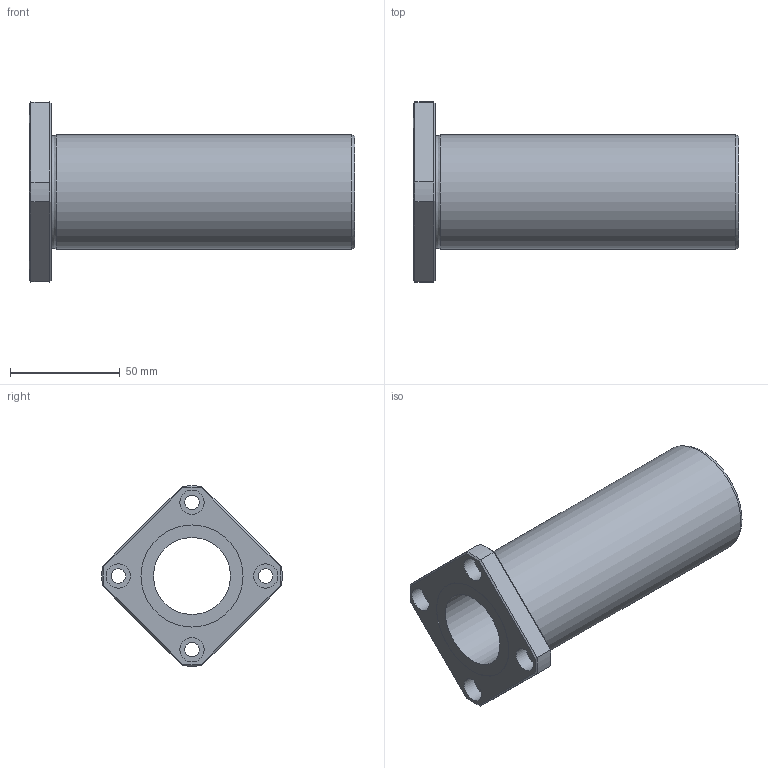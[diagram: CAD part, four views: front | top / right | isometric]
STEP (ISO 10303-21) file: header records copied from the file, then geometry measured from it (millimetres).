
FILE_DESCRIPTION((''),'2;1');
FILE_NAME('C:\Documents and Settings\土屋\My Documents\土屋移動用フォルダ\製品 (図面)\カタログ用3D\変換ファイル\OZAK_3D-CAD(STEP形式)\Part1.-Linear Bearings_ﾘﾆｱﾍﾞｱﾘﾝｸﾞ\09_Maintenance Free_ﾒｲﾝﾃﾅﾝｽﾌﾘｰ\L2017-09-21T14:10:59','2017-09-21T14:10:59',('y'),(''),'Autodesk Inventor 11','Autodesk Inventor 11','');
FILE_SCHEMA(('AUTOMOTIVE_DESIGN { 1 0 10303 214 1 1 1 1 }'));
Length unit declared in the file: millimetre
Products named in the file (1): LFDK-MF
Bounding box: 148 x 81.94 x 81.94 mm (x, y, z)
Volume: 187462.8 mm3; surface area: 48042.7 mm2
Topology: 1 solids, 1 shells, 47 faces, 96 edges, 58 vertices
Faces by surface type: plane 21, cylinder 16, cone 8, torus 1, bspline 1
Full cylindrical faces by diameter (mm): 6.6 x4, 11 x4, 35 x1, 46.4 x2, 52 x1
Entity records: 1275 total; most frequent: CARTESIAN_POINT 298, DIRECTION 202, ORIENTED_EDGE 164, AXIS2_PLACEMENT_3D 89, EDGE_CURVE 82, EDGE_LOOP 78, VERTEX_POINT 58, FACE_OUTER_BOUND 47
